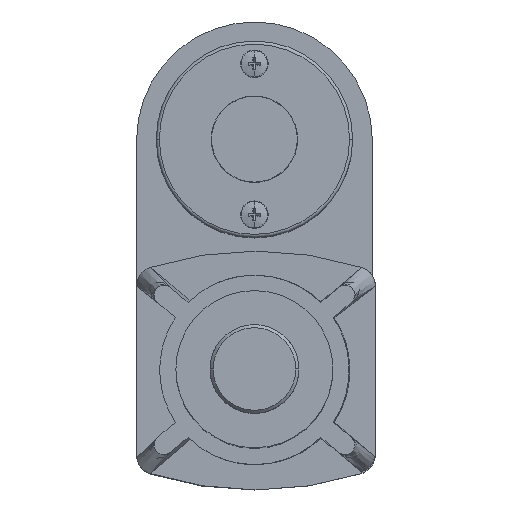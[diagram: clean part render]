
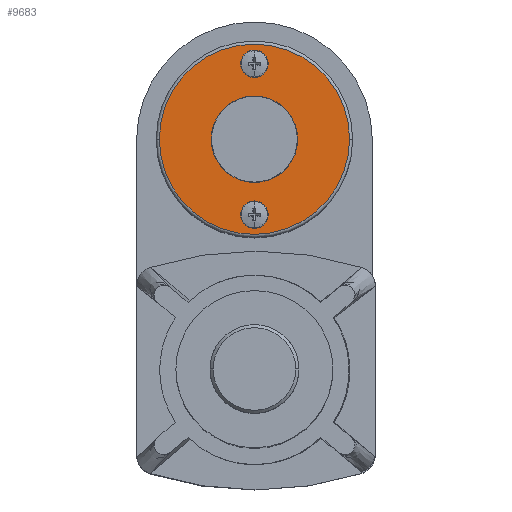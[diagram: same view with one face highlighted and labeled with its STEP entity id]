
A CAD part, top view. The second image highlights one B-rep face of the part: STEP entity #9683.
In plain terms, the highlighted planar face has unit normal (0, 0, 1).
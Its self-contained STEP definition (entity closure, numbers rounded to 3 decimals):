
#61 = CARTESIAN_POINT ( 'NONE',  ( 38.608, -7.238, 406.098 ) ) ;
#78 = CARTESIAN_POINT ( 'NONE',  ( 69.358, -31.638, 406.098 ) ) ;
#702 = EDGE_CURVE ( 'NONE', #9278, #7243, #6012, .T. ) ;
#1024 = CARTESIAN_POINT ( 'NONE',  ( 38.608, -31.638, 406.098 ) ) ;
#1194 = CARTESIAN_POINT ( 'NONE',  ( 38.608, -31.638, 406.098 ) ) ;
#1242 = DIRECTION ( 'NONE',  ( 0., 0., 1. ) ) ;
#1284 = FACE_OUTER_BOUND ( 'NONE', #5029, .T. ) ;
#1461 = EDGE_LOOP ( 'NONE', ( #6702, #9730 ) ) ;
#1486 = ORIENTED_EDGE ( 'NONE', *, *, #9528, .F. ) ;
#1713 = AXIS2_PLACEMENT_3D ( 'NONE', #8117, #3231, #5712 ) ;
#2047 = DIRECTION ( 'NONE',  ( 0., 0., 1. ) ) ;
#2523 = DIRECTION ( 'NONE',  ( -1., 0., 0. ) ) ;
#2648 = DIRECTION ( 'NONE',  ( -1., 0., 0. ) ) ;
#2721 = VERTEX_POINT ( 'NONE', #8014 ) ;
#2752 = DIRECTION ( 'NONE',  ( -1., 0., 0. ) ) ;
#2829 = EDGE_CURVE ( 'NONE', #7243, #9278, #5227, .T. ) ;
#3231 = DIRECTION ( 'NONE',  ( 0., 0., 1. ) ) ;
#3247 = AXIS2_PLACEMENT_3D ( 'NONE', #9038, #7531, #5081 ) ;
#3287 = DIRECTION ( 'NONE',  ( 0., 0., 1. ) ) ;
#3335 = CIRCLE ( 'NONE', #7560, 30.75 ) ;
#3555 = DIRECTION ( 'NONE',  ( 0., 0., 1. ) ) ;
#4094 = AXIS2_PLACEMENT_3D ( 'NONE', #1024, #3555, #2648 ) ;
#4495 = AXIS2_PLACEMENT_3D ( 'NONE', #6928, #2047, #5322 ) ;
#4786 = ORIENTED_EDGE ( 'NONE', *, *, #10489, .T. ) ;
#4988 = EDGE_CURVE ( 'NONE', #8711, #2721, #8995, .T. ) ;
#5029 = EDGE_LOOP ( 'NONE', ( #4786, #9565 ) ) ;
#5081 = DIRECTION ( 'NONE',  ( -1., 0., 0. ) ) ;
#5227 = CIRCLE ( 'NONE', #1713, 2.54 ) ;
#5322 = DIRECTION ( 'NONE',  ( -1., 0., 0. ) ) ;
#5648 = AXIS2_PLACEMENT_3D ( 'NONE', #6154, #1242, #2752 ) ;
#5712 = DIRECTION ( 'NONE',  ( -1., 0., 0. ) ) ;
#5890 = CARTESIAN_POINT ( 'NONE',  ( 41.148, -56.038, 406.098 ) ) ;
#5896 = FACE_BOUND ( 'NONE', #1461, .T. ) ;
#5942 = PLANE ( 'NONE',  #4094 ) ;
#6012 = CIRCLE ( 'NONE', #4495, 2.54 ) ;
#6154 = CARTESIAN_POINT ( 'NONE',  ( 38.608, -7.238, 406.098 ) ) ;
#6173 = FACE_BOUND ( 'NONE', #7981, .T. ) ;
#6360 = AXIS2_PLACEMENT_3D ( 'NONE', #61, #3287, #2523 ) ;
#6702 = ORIENTED_EDGE ( 'NONE', *, *, #702, .F. ) ;
#6907 = DIRECTION ( 'NONE',  ( -1., 0., 0. ) ) ;
#6928 = CARTESIAN_POINT ( 'NONE',  ( 38.608, -56.038, 406.098 ) ) ;
#7243 = VERTEX_POINT ( 'NONE', #5890 ) ;
#7531 = DIRECTION ( 'NONE',  ( 0., 0., 1. ) ) ;
#7560 = AXIS2_PLACEMENT_3D ( 'NONE', #1194, #7639, #6907 ) ;
#7639 = DIRECTION ( 'NONE',  ( 0., 0., 1. ) ) ;
#7981 = EDGE_LOOP ( 'NONE', ( #1486, #9943 ) ) ;
#8014 = CARTESIAN_POINT ( 'NONE',  ( 7.858, -31.638, 406.098 ) ) ;
#8117 = CARTESIAN_POINT ( 'NONE',  ( 38.608, -56.038, 406.098 ) ) ;
#8177 = CIRCLE ( 'NONE', #5648, 2.54 ) ;
#8423 = VERTEX_POINT ( 'NONE', #10313 ) ;
#8533 = VERTEX_POINT ( 'NONE', #8713 ) ;
#8711 = VERTEX_POINT ( 'NONE', #78 ) ;
#8713 = CARTESIAN_POINT ( 'NONE',  ( 41.148, -7.238, 406.098 ) ) ;
#8995 = CIRCLE ( 'NONE', #3247, 30.75 ) ;
#9038 = CARTESIAN_POINT ( 'NONE',  ( 38.608, -31.638, 406.098 ) ) ;
#9042 = CIRCLE ( 'NONE', #6360, 2.54 ) ;
#9235 = EDGE_CURVE ( 'NONE', #8533, #8423, #9042, .T. ) ;
#9278 = VERTEX_POINT ( 'NONE', #10534 ) ;
#9528 = EDGE_CURVE ( 'NONE', #8423, #8533, #8177, .T. ) ;
#9565 = ORIENTED_EDGE ( 'NONE', *, *, #4988, .T. ) ;
#9683 = ADVANCED_FACE ( 'NONE', ( #5896, #6173, #1284 ), #5942, .T. ) ;
#9730 = ORIENTED_EDGE ( 'NONE', *, *, #2829, .F. ) ;
#9943 = ORIENTED_EDGE ( 'NONE', *, *, #9235, .F. ) ;
#10313 = CARTESIAN_POINT ( 'NONE',  ( 36.068, -7.238, 406.098 ) ) ;
#10489 = EDGE_CURVE ( 'NONE', #2721, #8711, #3335, .T. ) ;
#10534 = CARTESIAN_POINT ( 'NONE',  ( 36.068, -56.038, 406.098 ) ) ;
